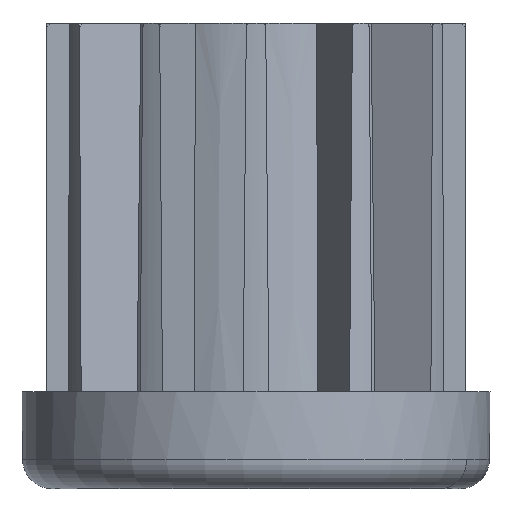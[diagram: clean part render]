
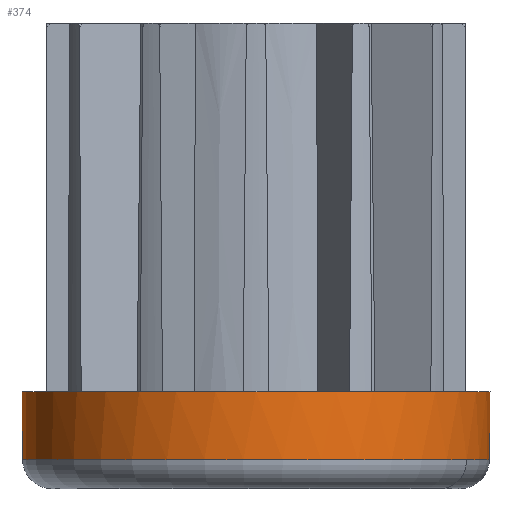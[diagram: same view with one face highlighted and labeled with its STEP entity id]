
A CAD part, front view. The second image highlights one B-rep face of the part: STEP entity #374.
In plain terms, the highlighted conical face has half-angle 0.5 degrees and reference radius 24.15 mm.
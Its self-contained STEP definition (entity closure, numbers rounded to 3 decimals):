
#81=CARTESIAN_POINT('Vertex',(24.089,0.,2.974)) ;
#119=CARTESIAN_POINT('Vertex',(-24.089,0.,2.974)) ;
#139=CARTESIAN_POINT('Line Origine',(-4375.343,0.,498607.304)) ;
#143=CARTESIAN_POINT('Vertex',(-24.15,0.,10.)) ;
#150=CARTESIAN_POINT('Vertex',(24.15,0.,10.)) ;
#153=CARTESIAN_POINT('Line Origine',(4375.343,0.,498607.304)) ;
#175=CARTESIAN_POINT('Vertex',(21.742,-10.372,2.974)) ;
#185=CARTESIAN_POINT('Axis2P3D Location',(0.,0.,2.974)) ;
#345=CARTESIAN_POINT('Axis2P3D Location',(0.,0.,2.974)) ;
#357=CARTESIAN_POINT('Axis2P3D Location',(0.,0.,10.)) ;
#362=CARTESIAN_POINT('Axis2P3D Location',(0.,0.,10.)) ;
#140=DIRECTION('Vector Direction',(-0.009,0.,1.)) ;
#154=DIRECTION('Vector Direction',(0.009,0.,1.)) ;
#186=DIRECTION('Axis2P3D Direction',(0.,0.,1.)) ;
#346=DIRECTION('Axis2P3D Direction',(0.,0.,1.)) ;
#358=DIRECTION('Axis2P3D Direction',(-0.,-0.,1.)) ;
#359=DIRECTION('Axis2P3D XDirection',(-1.,0.,0.)) ;
#363=DIRECTION('Axis2P3D Direction',(0.,-0.,1.)) ;
#187=AXIS2_PLACEMENT_3D('Circle Axis2P3D',#185,#186,$) ;
#347=AXIS2_PLACEMENT_3D('Circle Axis2P3D',#345,#346,$) ;
#360=AXIS2_PLACEMENT_3D('Cone Axis2P3D',#357,#358,#359) ;
#364=AXIS2_PLACEMENT_3D('Circle Axis2P3D',#362,#363,$) ;
#368=ORIENTED_EDGE('',*,*,#157,.F.) ;
#369=ORIENTED_EDGE('',*,*,#366,.F.) ;
#370=ORIENTED_EDGE('',*,*,#145,.T.) ;
#371=ORIENTED_EDGE('',*,*,#349,.F.) ;
#372=ORIENTED_EDGE('',*,*,#189,.F.) ;
#141=VECTOR('Line Direction',#140,1.) ;
#155=VECTOR('Line Direction',#154,1.) ;
#374=ADVANCED_FACE('1',(#373),#361,.T.) ;
#188=CIRCLE('generated circle',#187,24.089) ;
#348=CIRCLE('generated circle',#347,24.089) ;
#365=CIRCLE('generated circle',#364,24.15) ;
#361=CONICAL_SURFACE('Cone',#360,24.15,0.009) ;
#145=EDGE_CURVE('',#144,#120,#142,.F.) ;
#157=EDGE_CURVE('',#151,#82,#156,.F.) ;
#189=EDGE_CURVE('',#82,#176,#188,.F.) ;
#349=EDGE_CURVE('',#176,#120,#348,.F.) ;
#366=EDGE_CURVE('',#144,#151,#365,.T.) ;
#367=EDGE_LOOP('',(#368,#369,#370,#371,#372)) ;
#373=FACE_OUTER_BOUND('',#367,.T.) ;
#142=LINE('Line',#139,#141) ;
#156=LINE('Line',#153,#155) ;
#82=VERTEX_POINT('',#81) ;
#120=VERTEX_POINT('',#119) ;
#144=VERTEX_POINT('',#143) ;
#151=VERTEX_POINT('',#150) ;
#176=VERTEX_POINT('',#175) ;
